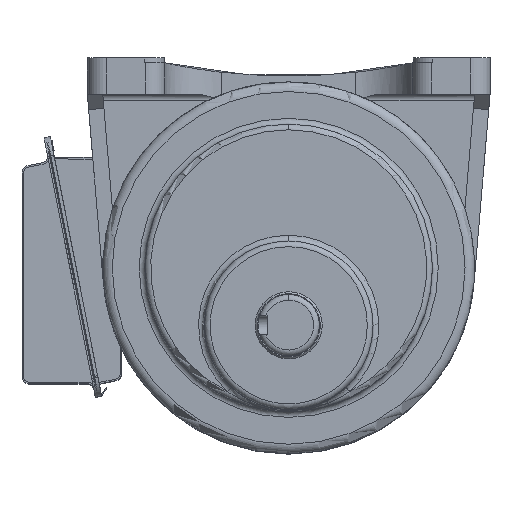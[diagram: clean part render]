
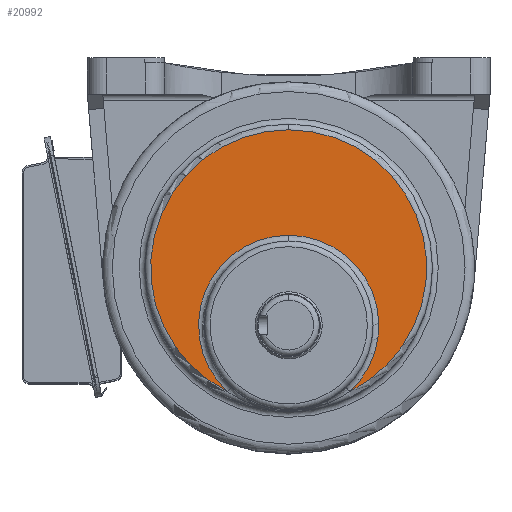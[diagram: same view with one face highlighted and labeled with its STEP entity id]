
A CAD part, top view. The second image highlights one B-rep face of the part: STEP entity #20992.
In plain terms, the highlighted planar face has unit normal (0, 0, 1).
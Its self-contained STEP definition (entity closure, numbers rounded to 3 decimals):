
#20949=CARTESIAN_POINT('',(-78.,-78.063,305.5));
#20950=DIRECTION('',(0.,0.,1.));
#20951=DIRECTION('',(0.,1.,0.));
#20952=AXIS2_PLACEMENT_3D('',#20949,#20950,#20951);
#20953=PLANE('',#20952);
#20954=CARTESIAN_POINT('',(31.828,-64.583,305.5));
#20955=VERTEX_POINT('',#20954);
#20956=CARTESIAN_POINT('',(0.,72.,305.5));
#20957=VERTEX_POINT('',#20956);
#20958=CARTESIAN_POINT('',(0.,0.,305.5));
#20959=DIRECTION('',(0.,-0.,1.));
#20960=DIRECTION('',(0.,1.,0.));
#20961=AXIS2_PLACEMENT_3D('',#20958,#20959,#20960);
#20962=CIRCLE('',#20961,72.);
#20963=EDGE_CURVE('',#20955,#20957,#20962,.T.);
#20964=ORIENTED_EDGE('',*,*,#20963,.T.);
#20965=CARTESIAN_POINT('',(-31.828,-64.583,305.5));
#20966=VERTEX_POINT('',#20965);
#20967=CARTESIAN_POINT('',(0.,0.,305.5));
#20968=DIRECTION('',(0.,-0.,1.));
#20969=DIRECTION('',(0.,1.,0.));
#20970=AXIS2_PLACEMENT_3D('',#20967,#20968,#20969);
#20971=CIRCLE('',#20970,72.);
#20972=EDGE_CURVE('',#20957,#20966,#20971,.T.);
#20973=ORIENTED_EDGE('',*,*,#20972,.T.);
#20974=CARTESIAN_POINT('',(-0.,17.,305.5));
#20975=VERTEX_POINT('',#20974);
#20976=CARTESIAN_POINT('',(0.,-30.,305.5));
#20977=DIRECTION('',(0.,0.,-1.));
#20978=DIRECTION('',(0.,1.,0.));
#20979=AXIS2_PLACEMENT_3D('',#20976,#20977,#20978);
#20980=CIRCLE('',#20979,47.);
#20981=EDGE_CURVE('',#20966,#20975,#20980,.T.);
#20982=ORIENTED_EDGE('',*,*,#20981,.T.);
#20983=CARTESIAN_POINT('',(0.,-30.,305.5));
#20984=DIRECTION('',(0.,0.,-1.));
#20985=DIRECTION('',(0.,1.,0.));
#20986=AXIS2_PLACEMENT_3D('',#20983,#20984,#20985);
#20987=CIRCLE('',#20986,47.);
#20988=EDGE_CURVE('',#20975,#20955,#20987,.T.);
#20989=ORIENTED_EDGE('',*,*,#20988,.T.);
#20990=EDGE_LOOP('',(#20964,#20973,#20982,#20989));
#20991=FACE_BOUND('',#20990,.T.);
#20992=ADVANCED_FACE('',(#20991),#20953,.T.);
